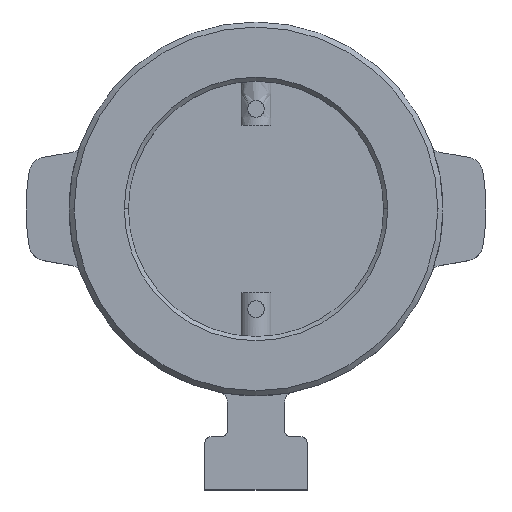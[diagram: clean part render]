
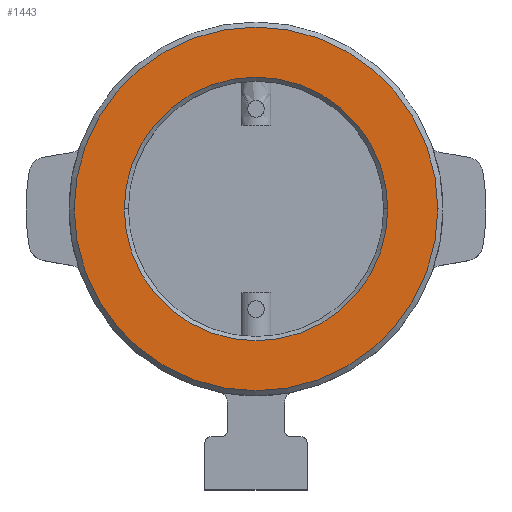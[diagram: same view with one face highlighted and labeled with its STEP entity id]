
A CAD part, top view. The second image highlights one B-rep face of the part: STEP entity #1443.
In plain terms, the highlighted planar face has unit normal (0, 0, 1).
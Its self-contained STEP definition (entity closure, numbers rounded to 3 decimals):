
#593=CARTESIAN_POINT('',(-64.5,0.,40.0));
#594=VERTEX_POINT('',#593);
#608=CARTESIAN_POINT('',(64.5,0.0,40.0));
#609=VERTEX_POINT('',#608);
#616=CARTESIAN_POINT('',(0.0,0.0,40.0));
#617=DIRECTION('',(0.0,0.0,1.0));
#618=DIRECTION('',(-1.0,0.0,0.0));
#619=AXIS2_PLACEMENT_3D('',#616,#617,#618);
#620=CIRCLE('',#619,64.5);
#621=EDGE_CURVE('',#609,#594,#620,.T.);
#633=CARTESIAN_POINT('',(-89.0,0.,40.0));
#634=VERTEX_POINT('',#633);
#650=CARTESIAN_POINT('',(89.0,0.0,40.0));
#651=VERTEX_POINT('',#650);
#658=CARTESIAN_POINT('',(0.0,0.0,40.0));
#659=DIRECTION('',(0.0,0.0,-1.0));
#660=DIRECTION('',(-1.0,0.0,0.0));
#661=AXIS2_PLACEMENT_3D('',#658,#659,#660);
#662=CIRCLE('',#661,89.0);
#663=EDGE_CURVE('',#651,#634,#662,.T.);
#1412=CARTESIAN_POINT('',(0.0,0.0,40.0));
#1413=DIRECTION('',(0.0,0.0,-1.0));
#1414=DIRECTION('',(-1.0,0.0,0.0));
#1415=AXIS2_PLACEMENT_3D('',#1412,#1413,#1414);
#1416=CIRCLE('',#1415,89.0);
#1417=EDGE_CURVE('',#634,#651,#1416,.T.);
#1424=CARTESIAN_POINT('',(0.0,0.0,40.0));
#1425=DIRECTION('',(0.0,0.0,1.0));
#1426=DIRECTION('',(-1.0,0.0,0.0));
#1427=AXIS2_PLACEMENT_3D('',#1424,#1425,#1426);
#1428=PLANE('',#1427);
#1429=ORIENTED_EDGE('',*,*,#663,.F.);
#1430=ORIENTED_EDGE('',*,*,#1417,.F.);
#1431=EDGE_LOOP('',(#1429,#1430));
#1432=FACE_OUTER_BOUND('',#1431,.T.);
#1433=ORIENTED_EDGE('',*,*,#621,.F.);
#1434=CARTESIAN_POINT('',(0.0,0.0,40.0));
#1435=DIRECTION('',(0.0,0.0,1.0));
#1436=DIRECTION('',(-1.0,0.0,0.0));
#1437=AXIS2_PLACEMENT_3D('',#1434,#1435,#1436);
#1438=CIRCLE('',#1437,64.5);
#1439=EDGE_CURVE('',#594,#609,#1438,.T.);
#1440=ORIENTED_EDGE('',*,*,#1439,.F.);
#1441=EDGE_LOOP('',(#1433,#1440));
#1442=FACE_BOUND('',#1441,.T.);
#1443=ADVANCED_FACE('',(#1432,#1442),#1428,.T.);
